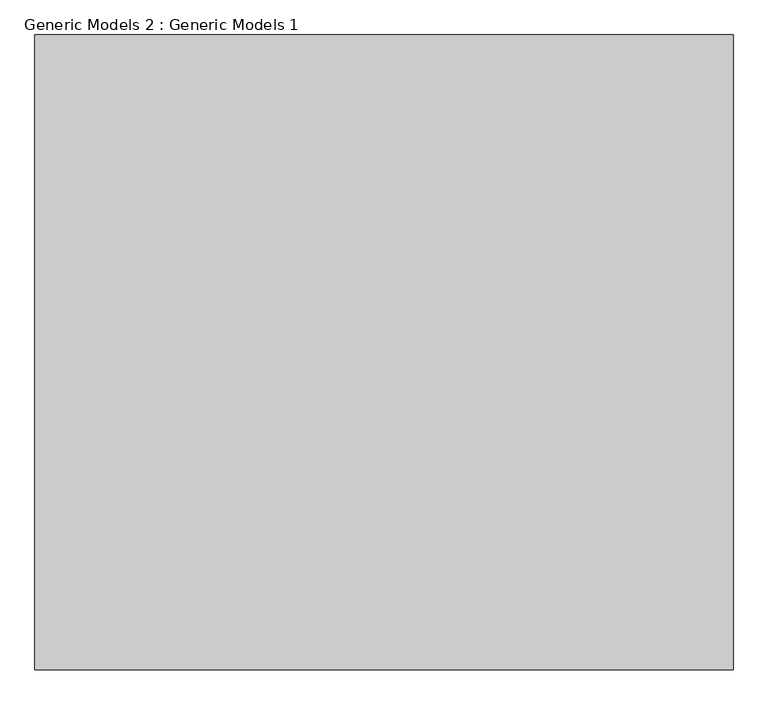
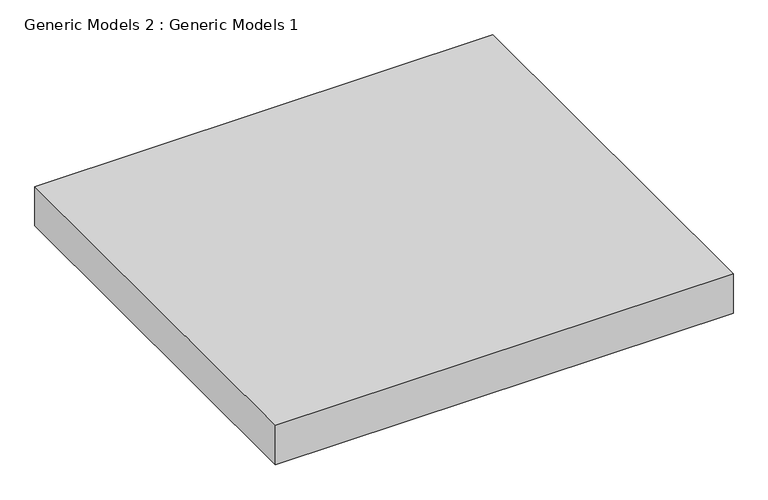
"""IFC4 building model written with IfcOpenShell, lengths in millimetres: proxy geometry, Generic Models 2 : Generic Models 1."""

from ifc_helpers import new_model, si_unit, origin, origin_with_axes, place, context, project, spatial, polyline, outline, extrude, source, transform, mapped, element, save


def generic_models_2_generic_models_1_16534c7f(model_context):
    return source(origin(), model_context, "Body", "SweptSolid", [
        extrude(outline(polyline([(6515.6840593, -9214.0002483), (6515.6840593, -8214.0002483), (7615.6840593, -8214.0002483), (7615.6840593, -9214.0002483), (6515.6840593, -9214.0002483)])), origin_with_axes(), (0.0, 0.0, 1.0), 100.0),
    ])


if __name__ == "__main__":
    model = new_model("IFC4")
    model_context = context("Model", 3, world=origin())
    ifc_project = project(units=[si_unit("LENGTHUNIT", "METRE", prefix="MILLI")], contexts=[model_context])
    site = spatial("IfcSite", under=ifc_project)
    building = spatial("IfcBuilding", under=site)
    placement = place(None, origin())
    generic_models_2_generic_models_1_shape = generic_models_2_generic_models_1_16534c7f(model_context)
    element("IfcBuildingElementProxy", 1, Name="Generic Models 2 : Generic Models 1", ObjectType="Generic Models 2 : Generic Models 1", at=placement, inside=building, context=model_context, shape_type="MappedRepresentation", body=[
        mapped(generic_models_2_generic_models_1_shape, transform((0.0, 0.0, 0.0), x_axis=(1.0, 0.0, 0.0), y_axis=(0.0, 1.0, 0.0), z_axis=(0.0, 0.0, 1.0))),
    ])
    save(model, "model.ifc")
